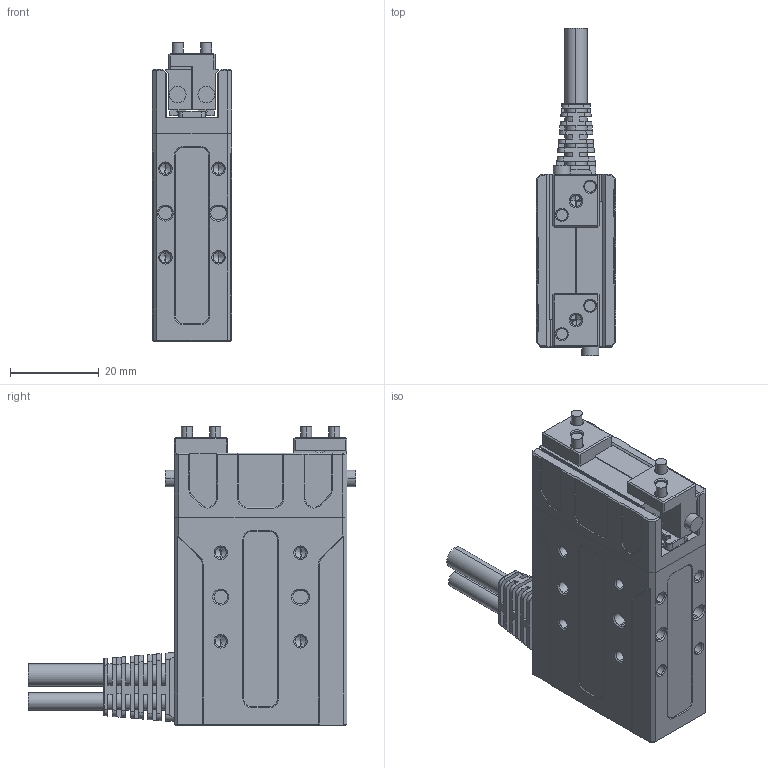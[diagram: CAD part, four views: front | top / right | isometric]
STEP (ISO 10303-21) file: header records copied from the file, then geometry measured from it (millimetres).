
FILE_DESCRIPTION (( 'STEP AP214' ), '1' );
FILE_NAME ('PGE-2-12-O-S.STEP', '2023-07-19T04:09:18', ( '' ), ( '' ), 'SwSTEP 2.0', 'SolidWorks 2020', '' );
FILE_SCHEMA (( 'AUTOMOTIVE_DESIGN' ));
Length unit declared in the file: millimetre
Products named in the file (3): 耜堤褲; PGE-2-12-O-S; 忒硌價釱
Assembly tree (3 placements, depth 2):
  PGE-2-12-O-S
    耜堤褲
    忒硌價釱  x2
Bounding box: 18 x 74 x 67.5 mm (x, y, z)
Volume: 42114.6 mm3; surface area: 19444 mm2
Topology: 12 solids, 12 shells, 1337 faces, 3299 edges, 1992 vertices
Faces by surface type: plane 596, cylinder 379, cone 346, bspline 16
Entity records: 50323 total; most frequent: CARTESIAN_POINT 6795, DIRECTION 6376, ORIENTED_EDGE 6092, EDGE_CURVE 3046, AXIS2_PLACEMENT_3D 2214, LINE 1948, VECTOR 1948, VERTEX_POINT 1877
